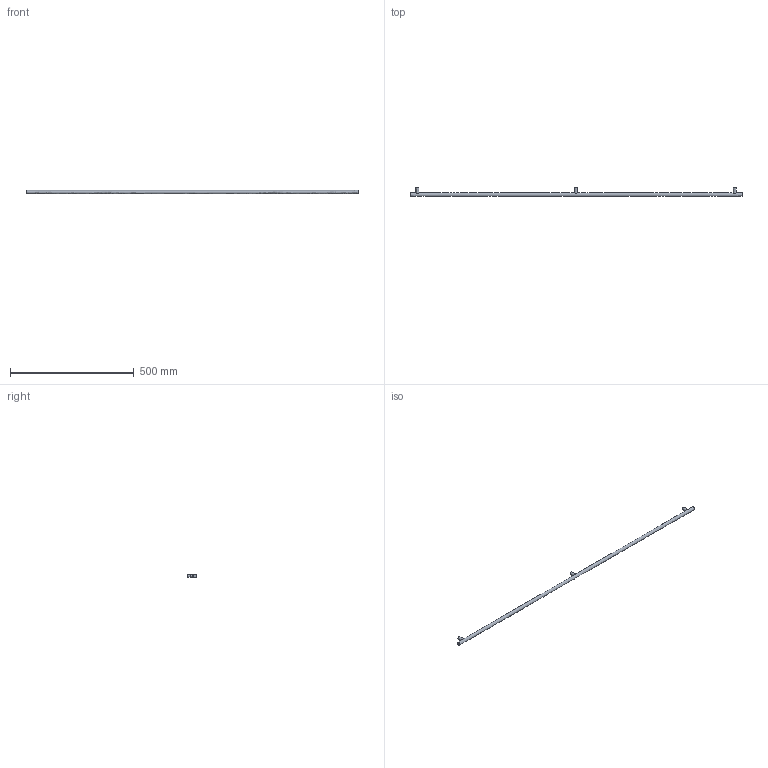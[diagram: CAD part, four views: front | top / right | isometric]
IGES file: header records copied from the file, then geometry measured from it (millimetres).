
Start section: Data from Parasolid IGES Translator 15.0.47, Copyright(c) 2006 Siemens P LM Software. All Rights Reserved.
Global section: file name: 9071118.igs; native system:  By UGS Corp.; preprocessor: XPlus GENERIC/IGES 3.0; author: Noname; organization: Noname; date: 20140122.181451; units: millimetre
Bounding box: 1340 x 35 x 14 mm (x, y, z)
Surface area: 62201.9 mm2 (no closed solid volume)
Topology: 0 solids, 0 shells, 15 faces, 42 edges, 30 vertices
Faces by surface type: extrusion 8, revolution 7
